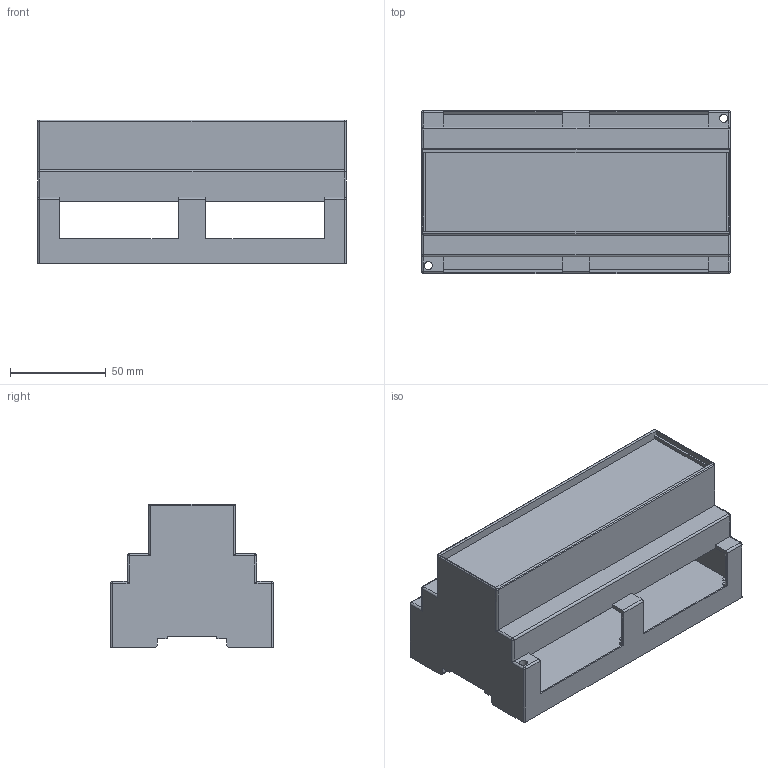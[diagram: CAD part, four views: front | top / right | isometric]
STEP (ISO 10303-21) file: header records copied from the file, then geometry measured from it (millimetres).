
FILE_DESCRIPTION (( 'STEP AP214' ), '1' );
FILE_NAME ('X480.STEP', '2015-03-11T10:41:21', ( 'User' ), ( 'Bender' ), 'SwSTEP 2.0', 'SolidWorks 2015', '' );
FILE_SCHEMA (( 'AUTOMOTIVE_DESIGN' ));
Length unit declared in the file: millimetre
Products named in the file (2): X480
Bounding box: 161 x 85 x 75 mm (x, y, z)
Volume: 144874.3 mm3; surface area: 104298 mm2
Topology: 1 solids, 1 shells, 205 faces, 552 edges, 336 vertices
Faces by surface type: plane 153, cylinder 40, sphere 8, torus 4
Entity records: 6266 total; most frequent: CARTESIAN_POINT 1111, ORIENTED_EDGE 1088, DIRECTION 1018, EDGE_CURVE 544, VECTOR 468, LINE 468, VERTEX_POINT 336, AXIS2_PLACEMENT_3D 275
